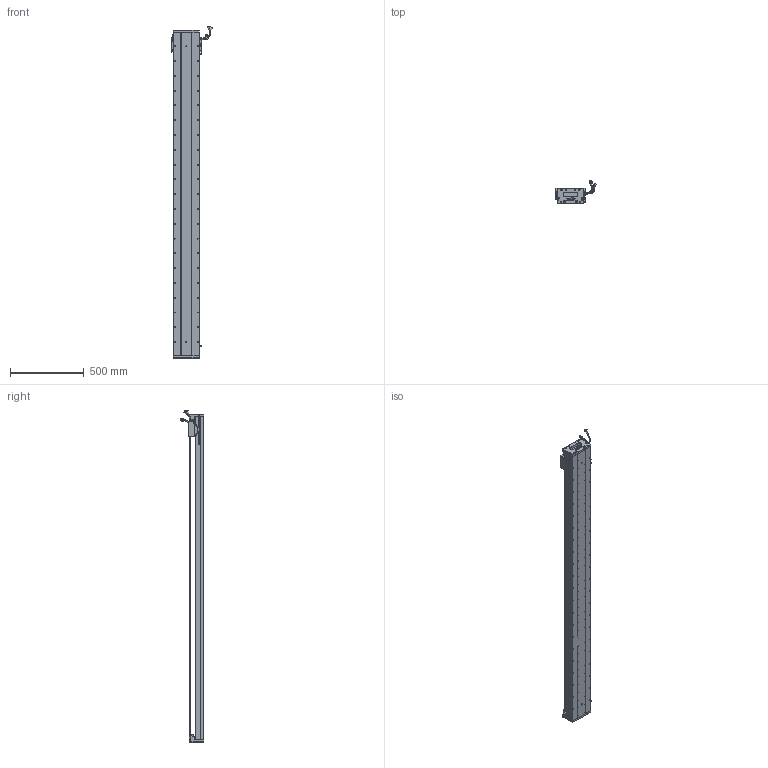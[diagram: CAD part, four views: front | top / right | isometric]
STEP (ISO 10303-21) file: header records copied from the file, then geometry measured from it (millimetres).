
FILE_DESCRIPTION (( 'STEP AP203' ), '1' );
FILE_NAME ('Z1-RY170D-1-L500-B-K.SLDASM_2000.step', '2021-05-17T08:54:25', ( '盈信电脑' ), ( '东莞市道滘镇水果街19号' ), 'SwSTEP 2.0', 'SolidWorks 2016', '' );
FILE_SCHEMA (( 'CONFIG_CONTROL_DESIGN' ));
Length unit declared in the file: millimetre
Products named in the file (36): Z1-RY170臏賑輸(21遴); HOLDER0; Z1-RY170-L500耀郪菁釱_2000; PBU_SHEET; LABEL; LABEL-Part-1; SCALE-Part-2; SCREW-M1.6-3; COVER-Part-1; Z-RY170詩湍奻揤裔; Z1-RY170D-1-L500-B-K.SLDASM_2000; HARNESS; Z-RY170詩湍狟揤裔; COVER; SEAL-Part-1; 170-Z-臏賑輸盄裔(21遴); PSLH080_PSLF2; 榋妏寠巭燃_暯_M2_2; Z-170詩湍傷裔啣; Z1-RY170-L500詩湍145mm遵_2000; SEAL; 080黍杅芛假蚾釱21遴; 覜茼ん672; SCREW-M1.6; SCALE-Part-1; 140蚥薯蝶輸; SCALE; SCREW-M1.7-1; SHIELDPLATE; SCREW-M1.7; SCREW-M1.6-2; RY170直线电机感应器672光电感应片; 140雄赽晤鎢ん堤盄; HARNESS-Part-2; SCREW-M1.6-1; HARNESS-Part-1
Assembly tree (41 placements, depth 4):
  Z1-RY170D-1-L500-B-K.SLDASM_2000
    Z1-RY170-L500耀郪菁釱_2000
    RY170直线电机感应器672光电感应片
    Z1-RY170臏賑輸(21遴)
    覜茼ん672  x3
    PSLH080_PSLF2
      SCALE
        SCALE-Part-1
        SCALE-Part-2
      HARNESS
        HARNESS-Part-1
        HARNESS-Part-2
      LABEL
        LABEL-Part-1
      COVER
        COVER-Part-1
      SEAL
        SEAL-Part-1
      榋妏寠巭燃_暯_M2_2
      SHIELDPLATE
      SCREW-M1.7
      SCREW-M1.7-1
      PBU_SHEET
      SCREW-M1.6
      SCREW-M1.6-1
      SCREW-M1.6-2
      SCREW-M1.6-3
      HOLDER0
    080黍杅芛假蚾釱21遴
    Z1-RY170-L500詩湍145mm遵_2000
    Z-170詩湍傷裔啣  x2
    Z-RY170詩湍奻揤裔  x2
    Z-RY170詩湍狟揤裔  x2
    140蚥薯蝶輸  x2
    170-Z-臏賑輸盄裔(21遴)
    140雄赽晤鎢ん堤盄
Bounding box: 275.34 x 158.11 x 2243.72 mm (x, y, z)
Volume: 10886790.4 mm3; surface area: 2718369.3 mm2
Topology: 36 solids, 36 shells, 3682 faces, 10133 edges, 6335 vertices
Faces by surface type: cylinder 1808, plane 1248, cone 504, torus 69, bspline 53
Entity records: 113913 total; most frequent: CARTESIAN_POINT 31360, ORIENTED_EDGE 16830, DIRECTION 15839, EDGE_CURVE 8415, AXIS2_PLACEMENT_3D 5812, VERTEX_POINT 5453, LINE 4215, VECTOR 4215
